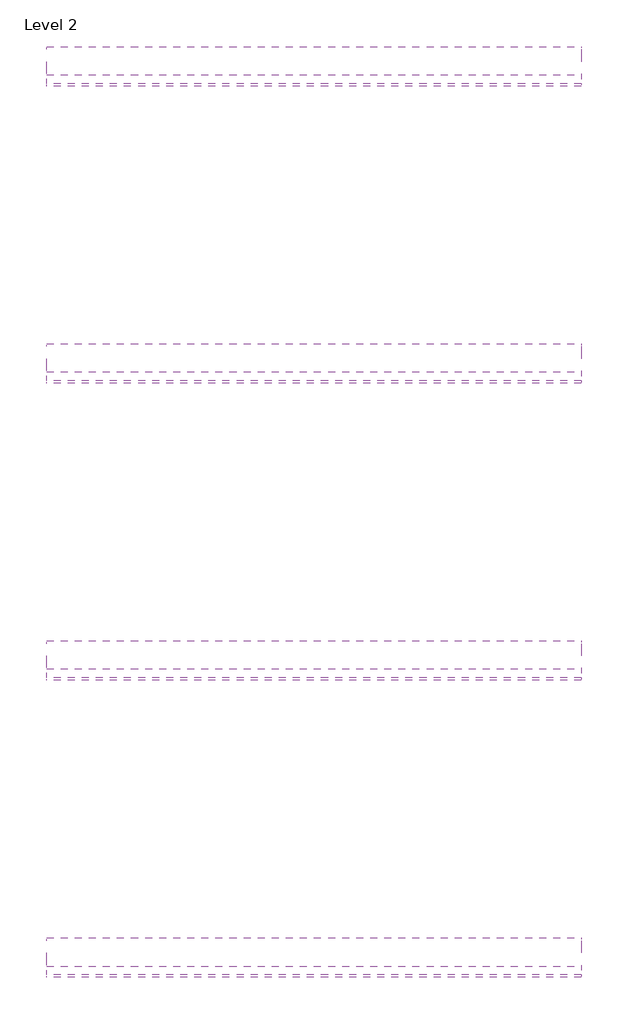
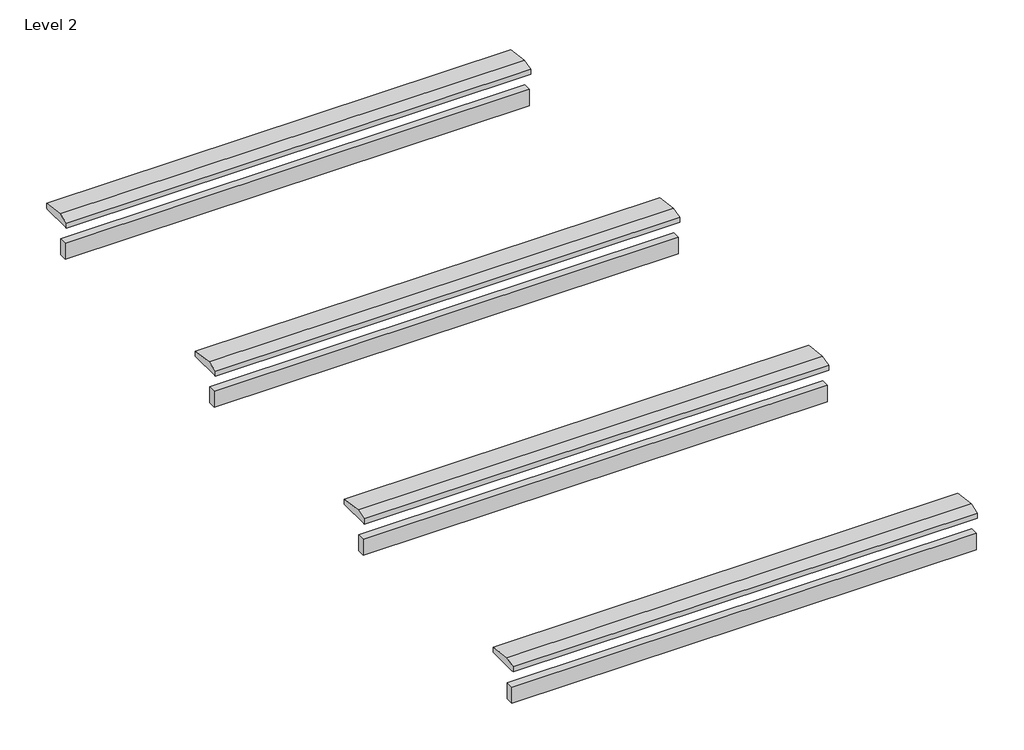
# One storey: 8 proxies.
"""IFC4 building model written with IfcOpenShell, lengths in millimetres."""

from ifc_helpers import new_model, si_unit, frame, origin, place, context, project, spatial, polyline, outline, extrude, faceted_brep, element, save

model = new_model("IFC4")

# Units and contexts
model_context = context("Model", 3, world=origin())
ifc_project = project(units=[si_unit("LENGTHUNIT", "METRE", prefix="MILLI")], contexts=[model_context])

# Site, building, storey
site = spatial("IfcSite", under=ifc_project)
building = spatial("IfcBuilding", under=site)
storey = spatial("IfcBuildingStorey", under=building, Name="Level 2", Elevation=3048.0)

# Proxies
placement = place(None, origin())
element("IfcBuildingElementProxy", 1, Name="Wall Sweeps", at=placement, inside=storey, context=model_context, shape_type="SweptSolid", body=[
    extrude(outline(polyline([(1921.2116009, -3191.6457655), (1921.2116009, -3283.7207655), (-3565.1883991, -3283.7207655), (-3565.1883991, -3191.6457655), (1921.2116009, -3191.6457655)])), frame((0.0, 0.0, 5689.6), z_axis=(0.0, 0.0, 1.0), x_axis=(1.0, 0.0, 0.0)), (0.0, 0.0, 1.0), 203.2),
])
element("IfcBuildingElementProxy", 2, Name="Wall Sweeps", at=placement, inside=storey, context=model_context, shape_type="Brep", body=[
    faceted_brep([(1921.2116009, -2902.7207655, 6159.5), (1921.2116009, -3182.1207655, 6197.6), (1921.2116009, -3309.1207655, 6159.5), (1921.2116009, -3309.1207655, 6096.0), (1921.2116009, -3283.7207655, 6096.0), (1921.2116009, -2931.2957655, 6096.0), (1921.2116009, -2902.7207655, 6096.0), (-3565.1883991, -2902.7207655, 6159.5), (-3565.1883991, -2902.7207655, 6096.0), (-3565.1883991, -2931.2957655, 6096.0), (-3565.1883991, -3283.7207655, 6096.0), (-3565.1883991, -3309.1207655, 6096.0), (-3565.1883991, -3309.1207655, 6159.5), (-3565.1883991, -3182.1207655, 6197.6)], [[[0, 1, 2, 3, 4, 5, 6]], [[7, 8, 9, 10, 11, 12, 13]], [[1, 0, 7, 13]], [[2, 1, 13, 12]], [[3, 2, 12, 11]], [[6, 5, 4, 3, 11, 10, 9, 8]], [[0, 6, 8, 7]]]),
])
element("IfcBuildingElementProxy", 3, Name="Wall Sweeps", at=placement, inside=storey, context=model_context, shape_type="SweptSolid", body=[
    extrude(outline(polyline([(1921.2116009, -143.6457655), (1921.2116009, -235.7207655), (-3565.1883991, -235.7207655), (-3565.1883991, -143.6457655), (1921.2116009, -143.6457655)])), frame((0.0, 0.0, 5689.6), z_axis=(0.0, 0.0, 1.0), x_axis=(1.0, 0.0, 0.0)), (0.0, 0.0, 1.0), 203.2),
])
element("IfcBuildingElementProxy", 4, Name="Wall Sweeps", at=placement, inside=storey, context=model_context, shape_type="Brep", body=[
    faceted_brep([(1921.2116009, 145.2792345, 6159.5), (1921.2116009, -134.1207655, 6197.6), (1921.2116009, -261.1207655, 6159.5), (1921.2116009, -261.1207655, 6096.0), (1921.2116009, -235.7207655, 6096.0), (1921.2116009, 116.7042345, 6096.0), (1921.2116009, 145.2792345, 6096.0), (-3565.1883991, 145.2792345, 6159.5), (-3565.1883991, 145.2792345, 6096.0), (-3565.1883991, 116.7042345, 6096.0), (-3565.1883991, -235.7207655, 6096.0), (-3565.1883991, -261.1207655, 6096.0), (-3565.1883991, -261.1207655, 6159.5), (-3565.1883991, -134.1207655, 6197.6)], [[[0, 1, 2, 3, 4, 5, 6]], [[7, 8, 9, 10, 11, 12, 13]], [[1, 0, 7, 13]], [[2, 1, 13, 12]], [[3, 2, 12, 11]], [[6, 5, 4, 3, 11, 10, 9, 8]], [[0, 6, 8, 7]]]),
])
element("IfcBuildingElementProxy", 5, Name="Wall Sweeps", at=placement, inside=storey, context=model_context, shape_type="SweptSolid", body=[
    extrude(outline(polyline([(1921.2116009, 2904.3542345), (1921.2116009, 2812.2792345), (-3565.1883991, 2812.2792345), (-3565.1883991, 2904.3542345), (1921.2116009, 2904.3542345)])), frame((0.0, 0.0, 5689.6), z_axis=(0.0, 0.0, 1.0), x_axis=(1.0, 0.0, 0.0)), (0.0, 0.0, 1.0), 203.2),
])
element("IfcBuildingElementProxy", 6, Name="Wall Sweeps", at=placement, inside=storey, context=model_context, shape_type="Brep", body=[
    faceted_brep([(1921.2116009, 3193.2792345, 6159.5), (1921.2116009, 2913.8792345, 6197.6), (1921.2116009, 2786.8792345, 6159.5), (1921.2116009, 2786.8792345, 6096.0), (1921.2116009, 2812.2792345, 6096.0), (1921.2116009, 3164.7042345, 6096.0), (1921.2116009, 3193.2792345, 6096.0), (-3565.1883991, 3193.2792345, 6159.5), (-3565.1883991, 3193.2792345, 6096.0), (-3565.1883991, 3164.7042345, 6096.0), (-3565.1883991, 2812.2792345, 6096.0), (-3565.1883991, 2786.8792345, 6096.0), (-3565.1883991, 2786.8792345, 6159.5), (-3565.1883991, 2913.8792345, 6197.6)], [[[0, 1, 2, 3, 4, 5, 6]], [[7, 8, 9, 10, 11, 12, 13]], [[1, 0, 7, 13]], [[2, 1, 13, 12]], [[3, 2, 12, 11]], [[6, 5, 4, 3, 11, 10, 9, 8]], [[0, 6, 8, 7]]]),
])
element("IfcBuildingElementProxy", 7, Name="Wall Sweeps", at=placement, inside=storey, context=model_context, shape_type="SweptSolid", body=[
    extrude(outline(polyline([(1921.2116009, 5952.3542345), (1921.2116009, 5860.2792345), (-3565.1883991, 5860.2792345), (-3565.1883991, 5952.3542345), (1921.2116009, 5952.3542345)])), frame((0.0, 0.0, 5689.6), z_axis=(0.0, 0.0, 1.0), x_axis=(1.0, 0.0, 0.0)), (0.0, 0.0, 1.0), 203.2),
])
element("IfcBuildingElementProxy", 8, Name="Wall Sweeps", at=placement, inside=storey, context=model_context, shape_type="Brep", body=[
    faceted_brep([(1921.2116009, 6241.2792345, 6159.5), (1921.2116009, 5961.8792345, 6197.6), (1921.2116009, 5834.8792345, 6159.5), (1921.2116009, 5834.8792345, 6096.0), (1921.2116009, 5860.2792345, 6096.0), (1921.2116009, 6212.7042345, 6096.0), (1921.2116009, 6241.2792345, 6096.0), (-3565.1883991, 6241.2792345, 6159.5), (-3565.1883991, 6241.2792345, 6096.0), (-3565.1883991, 6212.7042345, 6096.0), (-3565.1883991, 5860.2792345, 6096.0), (-3565.1883991, 5834.8792345, 6096.0), (-3565.1883991, 5834.8792345, 6159.5), (-3565.1883991, 5961.8792345, 6197.6)], [[[0, 1, 2, 3, 4, 5, 6]], [[7, 8, 9, 10, 11, 12, 13]], [[1, 0, 7, 13]], [[2, 1, 13, 12]], [[3, 2, 12, 11]], [[6, 5, 4, 3, 11, 10, 9, 8]], [[0, 6, 8, 7]]]),
])

save(model, "model.ifc")
